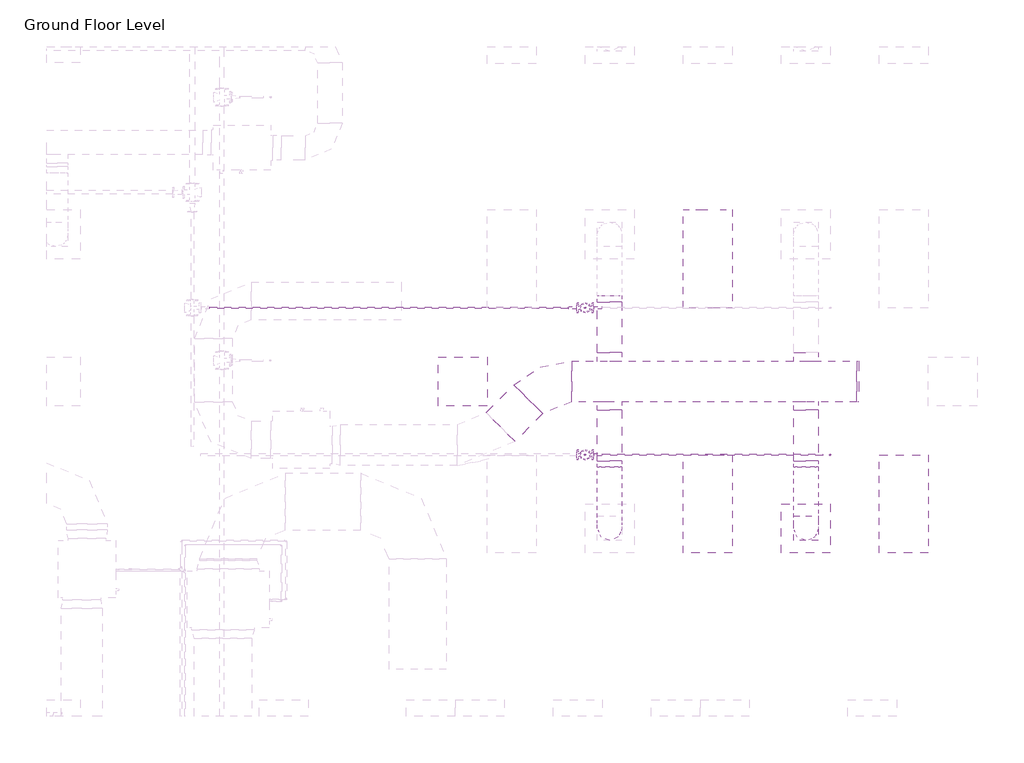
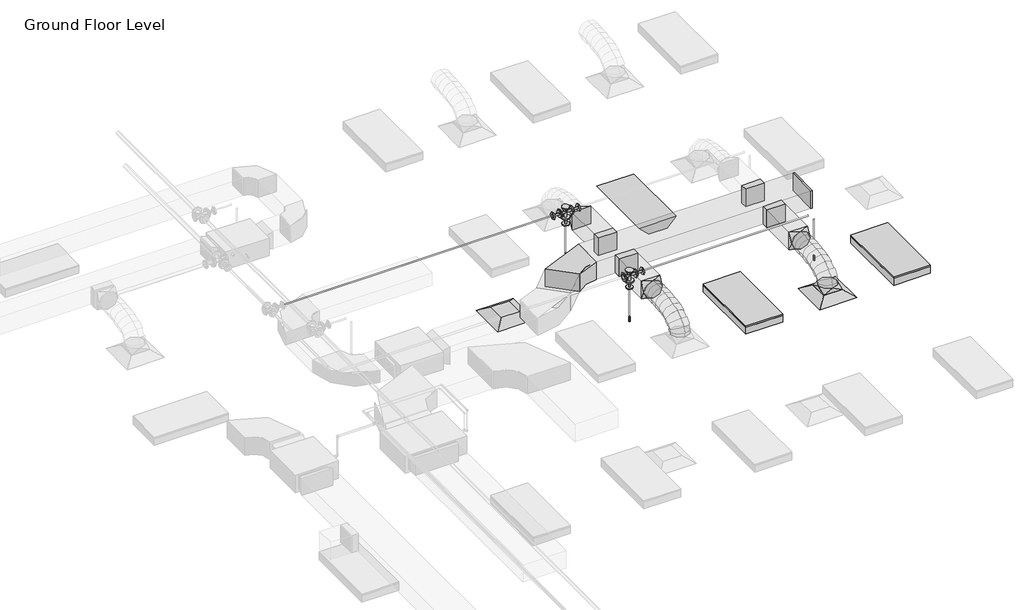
# One storey, part 36 of 68: 10 duct fittings, 7 duct segments, 7 pipe fittings, 5 pipe segments, 3 fire suppression terminals, 3 light fixtures, 2 air terminals.
"""IFC4 building model written with IfcOpenShell, lengths in millimetres."""

from ifc_helpers import new_model, si_unit, point, frame, frame_2d, origin, place, context, project, spatial, polyline, circle_curve, ellipse_curve, trimmed, segment, composite_curve, outline, extrude, transform, mapped, element, save
from ifc_brep_helpers import plane_surface, cylinder_surface, advanced_brep
from components import m_return_diffuser_600_x_600_face_300_x_300_connection_ff221211, m_rectangular_elbow_radius_1_5_w_acc56c25, m_rectangular_endcap_standard_72d4d00d, m_rectangular_takeoff_standard_cb0ccb98, m_rectangular_takeoff_standard_2be5eba1, m_rectangular_to_round_transition_angle_45_degree_641efff0, m_sprinkler_dry_pendent_hosted_15_mm_dry_pendent_9bda8e11, m_emergency_recessed_lighting_fixture_600x1200_277_5b10b25d, m_troffer_light_parabolic_rectangular1_0600x1200mm_4_lamp_86473d4a, m_reducer_flanged_cs_class_150_standard_ccf252ad, m_tee_round_base_flanged_cs_class_150_standard_7e5987a1

model = new_model("IFC4")

# Units and contexts
model_context = context("Model", 3, world=origin())
ifc_project = project(units=[si_unit("LENGTHUNIT", "METRE", prefix="MILLI")], contexts=[model_context])

# Site, building, storey
site = spatial("IfcSite", under=ifc_project)
building = spatial("IfcBuilding", under=site)
storey = spatial("IfcBuildingStorey", under=building, Name="Ground Floor Level", Elevation=900.0)

# Air terminals
placement = place(None, origin())
m_return_diffuser_600_x_600_face_300_x_300_connection_shape = m_return_diffuser_600_x_600_face_300_x_300_connection_ff221211(model_context)
element("IfcAirTerminal", 1, ObjectType="M_Return Diffuser : 600 x 600 Face 300 x 300 Connection", at=placement, inside=storey, context=model_context, shape_type="MappedRepresentation", body=[
    mapped(m_return_diffuser_600_x_600_face_300_x_300_connection_shape, transform((8942.7672395, -5264.7846466, 3650.0), x_axis=(1.0, 0.0, 0.0), y_axis=(0.0, 1.0, 0.0), z_axis=(0.0, 0.0, 1.0))),
])
element("IfcAirTerminal", 2, ObjectType="M_Supply Diffuser : 600 x 600 Face 300 x 300 Connection", at=placement, inside=storey, context=model_context, shape_type="MappedRepresentation", body=[
    mapped(m_return_diffuser_600_x_600_face_300_x_300_connection_shape, transform((13142.7672395, -7064.7846466, 3650.0), x_axis=(1.0, 0.0, 0.0), y_axis=(0.0, 1.0, 0.0), z_axis=(0.0, 0.0, 1.0))),
])

# Duct fittings
m_rectangular_elbow_radius_1_5_w_shape = m_rectangular_elbow_radius_1_5_w_acc56c25(model_context)
element("IfcDuctFitting", 3, ObjectType="M_Rectangular Elbow - Radius : 1.5 W", at=placement, inside=storey, context=model_context, shape_type="MappedRepresentation", body=[
    mapped(m_rectangular_elbow_radius_1_5_w_shape, transform((9966.7301365, -5264.7846466, 4100.0), x_axis=(-1.0, 0.0, 0.0), y_axis=(0.0, -0.9999999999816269, 6.061864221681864e-06), z_axis=(0.0, 6.061864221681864e-06, 0.9999999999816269))),
])
m_rectangular_endcap_standard_shape = m_rectangular_endcap_standard_72d4d00d(model_context)
element("IfcDuctFitting", 4, ObjectType="M_Rectangular Endcap : Standard", at=placement, inside=storey, context=model_context, shape_type="MappedRepresentation", body=[
    mapped(m_rectangular_endcap_standard_shape, transform((13766.7301365, -5264.7846466, 4100.0), x_axis=(1.0, 0.0, 0.0), y_axis=(0.0, 1.0, 0.0), z_axis=(0.0, 0.0, 1.0))),
])
m_rectangular_takeoff_standard_shape = m_rectangular_takeoff_standard_cb0ccb98(model_context)
element("IfcDuctFitting", 5, ObjectType="M_Rectangular Takeoff : Standard", at=placement, inside=storey, context=model_context, shape_type="MappedRepresentation", body=[
    mapped(m_rectangular_takeoff_standard_shape, transform((10742.7672395, -5014.7846466, 4100.0), x_axis=(0.0, 1.0, 0.0), y_axis=(1.0, 0.0, 0.0), z_axis=(0.0, 0.0, -1.0))),
])
element("IfcDuctFitting", 6, ObjectType="M_Rectangular Takeoff : Standard", at=placement, inside=storey, context=model_context, shape_type="MappedRepresentation", body=[
    mapped(m_rectangular_takeoff_standard_shape, transform((13142.7672395, -5014.7846466, 4100.0), x_axis=(0.0, 1.0, 0.0), y_axis=(1.0, 0.0, 0.0), z_axis=(0.0, 0.0, -1.0))),
])
m_rectangular_takeoff_standard_2_shape = m_rectangular_takeoff_standard_2be5eba1(model_context)
element("IfcDuctFitting", 7, ObjectType="M_Rectangular Takeoff : Standard", at=placement, inside=storey, context=model_context, shape_type="MappedRepresentation", body=[
    mapped(m_rectangular_takeoff_standard_2_shape, transform((13142.7672395, -5514.7846466, 4100.0), x_axis=(0.0, -1.0, 0.0), y_axis=(-1.0, 0.0, 0.0), z_axis=(0.0, 0.0, -1.0))),
])
element("IfcDuctFitting", 8, ObjectType="M_Rectangular Takeoff : Standard", at=placement, inside=storey, context=model_context, shape_type="MappedRepresentation", body=[
    mapped(m_rectangular_takeoff_standard_2_shape, transform((10742.7672395, -5514.7846466, 4100.0), x_axis=(0.0, -1.0, 0.0), y_axis=(-1.0, 0.0, 0.0), z_axis=(0.0, 0.0, -1.0))),
])
m_rectangular_to_round_transition_angle_45_degree_shape = m_rectangular_to_round_transition_angle_45_degree_641efff0(model_context)
element("IfcDuctFitting", 9, ObjectType="M_Rectangular to Round Transition - Angle : 45 Degree", at=placement, inside=storey, context=model_context, shape_type="MappedRepresentation", body=[
    mapped(m_rectangular_to_round_transition_angle_45_degree_shape, transform((10742.7672395, -6237.4487153, 4100.0), x_axis=(0.0, -1.0, 0.0), y_axis=(1.0, 0.0, 0.0), z_axis=(0.0, 0.0, 1.0))),
])
element("IfcDuctFitting", 10, ObjectType="M_Rectangular to Round Transition - Angle : 45 Degree", at=placement, inside=storey, context=model_context, shape_type="MappedRepresentation", body=[
    mapped(m_rectangular_to_round_transition_angle_45_degree_shape, transform((13142.7672395, -7064.7846466, 3751.6), x_axis=(0.0, 0.0, 1.0), y_axis=(-1.0, 0.0, 0.0), z_axis=(0.0, -1.0, 0.0))),
])
element("IfcDuctFitting", 11, ObjectType="M_Rectangular to Round Transition - Angle : 45 Degree", at=placement, inside=storey, context=model_context, shape_type="MappedRepresentation", body=[
    mapped(m_rectangular_to_round_transition_angle_45_degree_shape, transform((13142.7672395, -6237.4487153, 4100.0), x_axis=(0.0, -1.0, 0.0), y_axis=(1.0, 0.0, 0.0), z_axis=(0.0, 0.0, 1.0))),
])
element("IfcDuctFitting", 12, ObjectType="M_Rectangular to Round Transition - Angle : 45 Degree", at=placement, inside=storey, context=model_context, shape_type="MappedRepresentation", body=[
    mapped(m_rectangular_to_round_transition_angle_45_degree_shape, transform((10742.7672395, -4292.1205779, 4100.0), x_axis=(0.0, 1.0, 0.0), y_axis=(-1.0, 0.0, 0.0), z_axis=(0.0, 0.0, 1.0))),
])

# Duct segments
element("IfcDuctSegment", 13, ObjectType="Flex - Round", at=placement, inside=storey, context=model_context, shape_type="AdvancedBrep", body=[
    advanced_brep(
    [(10892.7672395, -7064.7846466, 3826.6), (10742.7672395, -7214.7846466, 3826.6), (10592.7672395, -7064.7846466, 3826.6), (10742.7672395, -6914.7846466, 3826.6), (10892.7672395, -7064.7846466, 3857.9377114), (10742.7672395, -7214.7846466, 3883.5809337), (10592.7672395, -7064.7846466, 3857.9377114), (10742.7672395, -6914.7846466, 3832.2944892), (10892.7672395, -7047.7687141, 3906.2505728), (10742.7672395, -7181.506693, 3978.0660967), (10592.7672395, -7047.7687141, 3906.2505728), (10742.7672395, -6914.0307351, 3834.435049), (10892.7672395, -7000.5848337, 3968.7113131), (10742.7672395, -7104.7907329, 4079.6206026), (10592.7672395, -7000.5848337, 3968.7113131), (10742.7672395, -6896.3789345, 3857.8020236), (10892.7672395, -6929.0288815, 4016.0700639), (10742.7672395, -6997.9629372, 4150.3237489), (10592.7672395, -6929.0288815, 4016.0700639), (10742.7672395, -6860.0948259, 3881.8163788), (10892.7672395, -6838.8967335, 4050.4146682), (10742.7672395, -6882.4574967, 4194.3367758), (10592.7672395, -6838.8967335, 4050.4146682), (10742.7672395, -6795.3359704, 3906.4925606), (10892.7672395, -6735.9842657, 4073.8329691), (10742.7672395, -6762.5451897, 4221.6234841), (10592.7672395, -6735.9842657, 4073.8329691), (10742.7672395, -6709.4233417, 3926.0424542), (10892.7672395, -6626.087354, 4088.4128097), (10742.7672395, -6641.2382563, 4237.7170733), (10592.7672395, -6626.087354, 4088.4128097), (10742.7672395, -6610.9364516, 3939.1085462), (10892.7672395, -6515.0018743, 4096.242033), (10742.7672395, -6522.5072025, 4246.085151), (10592.7672395, -6515.0018743, 4096.242033), (10742.7672395, -6507.4965462, 3946.398915), (10892.7672395, -6408.5237028, 4099.4084821), (10742.7672395, -6411.2151959, 4249.394754), (10592.7672395, -6408.5237028, 4099.4084821), (10742.7672395, -6405.8322097, 3949.4222102), (10892.7672395, -6312.4487153, 4100.0), (10742.7672395, -6311.5252075, 3950.0028429), (10592.7672395, -6312.4487153, 4100.0), (10742.7672395, -6313.3722232, 4249.9971571)],
    [
        (0, 1, circle_curve(frame((10742.7672395, -7064.7846466, 3826.6), z_axis=(0.0, 0.0, -1.0), x_axis=(1.0, 0.0, 0.0)), 150.0)),
        (1, 2, circle_curve(frame((10742.7672395, -7064.7846466, 3826.6), z_axis=(0.0, 0.0, -1.0), x_axis=(1.0, 0.0, 0.0)), 150.0)),
        (2, 3, circle_curve(frame((10742.7672395, -7064.7846466, 3826.6), z_axis=(0.0, 0.0, -1.0), x_axis=(1.0, 0.0, 0.0)), 150.0)),
        (3, 0, circle_curve(frame((10742.7672395, -7064.7846466, 3826.6), z_axis=(0.0, 0.0, -1.0), x_axis=(1.0, 0.0, 0.0)), 150.0)),
        (0, 4),
        (4, 5, ellipse_curve(frame((10742.7672395, -7064.7846466, 3857.9377114), z_axis=(0.0, -0.16851014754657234, -0.9856999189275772), x_axis=(0.0, 0.9856999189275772, -0.1685101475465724)), 152.176131, 150.0)),
        (5, 1),
        (5, 6, ellipse_curve(frame((10742.7672395, -7064.7846466, 3857.9377114), z_axis=(0.0, -0.16851014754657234, -0.9856999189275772), x_axis=(0.0, 0.9856999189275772, -0.1685101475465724)), 152.176131, 150.0)),
        (6, 2),
        (6, 7, ellipse_curve(frame((10742.7672395, -7064.7846466, 3857.9377114), z_axis=(0.0, -0.16851014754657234, -0.9856999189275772), x_axis=(0.0, 0.9856999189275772, -0.1685101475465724)), 152.176131, 150.0)),
        (7, 3),
        (7, 4, ellipse_curve(frame((10742.7672395, -7064.7846466, 3857.9377114), z_axis=(0.0, -0.16851014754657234, -0.9856999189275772), x_axis=(0.0, 0.9856999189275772, -0.1685101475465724)), 152.176131, 150.0)),
        (4, 8),
        (8, 9, ellipse_curve(frame((10742.7672395, -7047.7687141, 3906.2505728), z_axis=(0.0, -0.4730922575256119, -0.8810128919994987), x_axis=(0.0, 0.8810128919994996, -0.47309225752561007)), 151.8002519, 150.0)),
        (9, 5),
        (9, 10, ellipse_curve(frame((10742.7672395, -7047.7687141, 3906.2505728), z_axis=(0.0, -0.4730922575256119, -0.8810128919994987), x_axis=(0.0, 0.8810128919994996, -0.47309225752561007)), 151.8002519, 150.0)),
        (10, 6),
        (10, 11, ellipse_curve(frame((10742.7672395, -7047.7687141, 3906.2505728), z_axis=(0.0, -0.4730922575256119, -0.8810128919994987), x_axis=(0.0, 0.8810128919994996, -0.47309225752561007)), 151.8002519, 150.0)),
        (11, 7),
        (11, 8, ellipse_curve(frame((10742.7672395, -7047.7687141, 3906.2505728), z_axis=(0.0, -0.4730922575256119, -0.8810128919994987), x_axis=(0.0, 0.8810128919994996, -0.47309225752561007)), 151.8002519, 150.0)),
        (8, 12),
        (12, 13, ellipse_curve(frame((10742.7672395, -7000.5848337, 3968.7113131), z_axis=(0.0, -0.7287877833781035, -0.6847396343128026), x_axis=(0.0, 0.6847396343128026, -0.7287877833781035)), 152.1832446, 150.0)),
        (13, 9),
        (13, 14, ellipse_curve(frame((10742.7672395, -7000.5848337, 3968.7113131), z_axis=(0.0, -0.7287877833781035, -0.6847396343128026), x_axis=(0.0, 0.6847396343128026, -0.7287877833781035)), 152.1832446, 150.0)),
        (14, 10),
        (14, 15, ellipse_curve(frame((10742.7672395, -7000.5848337, 3968.7113131), z_axis=(0.0, -0.7287877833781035, -0.6847396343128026), x_axis=(0.0, 0.6847396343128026, -0.7287877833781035)), 152.1832446, 150.0)),
        (15, 11),
        (15, 12, ellipse_curve(frame((10742.7672395, -7000.5848337, 3968.7113131), z_axis=(0.0, -0.7287877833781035, -0.6847396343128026), x_axis=(0.0, 0.6847396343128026, -0.7287877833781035)), 152.1832446, 150.0)),
        (12, 16),
        (16, 17, ellipse_curve(frame((10742.7672395, -6929.0288815, 4016.0700639), z_axis=(0.0, -0.8895859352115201, -0.4567678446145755), x_axis=(0.0, 0.45676784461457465, -0.8895859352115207)), 150.91705, 150.0)),
        (17, 13),
        (17, 18, ellipse_curve(frame((10742.7672395, -6929.0288815, 4016.0700639), z_axis=(0.0, -0.8895859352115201, -0.4567678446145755), x_axis=(0.0, 0.45676784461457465, -0.8895859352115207)), 150.91705, 150.0)),
        (18, 14),
        (18, 19, ellipse_curve(frame((10742.7672395, -6929.0288815, 4016.0700639), z_axis=(0.0, -0.8895859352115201, -0.4567678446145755), x_axis=(0.0, 0.45676784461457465, -0.8895859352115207)), 150.91705, 150.0)),
        (19, 15),
        (19, 16, ellipse_curve(frame((10742.7672395, -6929.0288815, 4016.0700639), z_axis=(0.0, -0.8895859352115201, -0.4567678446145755), x_axis=(0.0, 0.45676784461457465, -0.8895859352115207)), 150.91705, 150.0)),
        (16, 20),
        (20, 21, ellipse_curve(frame((10742.7672395, -6838.8967335, 4050.4146682), z_axis=(0.0, -0.9571203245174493, -0.28969067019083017), x_axis=(0.0, 0.28969067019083, -0.9571203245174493)), 150.369921, 150.0)),
        (21, 17),
        (21, 22, ellipse_curve(frame((10742.7672395, -6838.8967335, 4050.4146682), z_axis=(0.0, -0.9571203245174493, -0.28969067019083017), x_axis=(0.0, 0.28969067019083, -0.9571203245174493)), 150.369921, 150.0)),
        (22, 18),
        (22, 23, ellipse_curve(frame((10742.7672395, -6838.8967335, 4050.4146682), z_axis=(0.0, -0.9571203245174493, -0.28969067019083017), x_axis=(0.0, 0.28969067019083, -0.9571203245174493)), 150.369921, 150.0)),
        (23, 19),
        (23, 20, ellipse_curve(frame((10742.7672395, -6838.8967335, 4050.4146682), z_axis=(0.0, -0.9571203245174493, -0.28969067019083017), x_axis=(0.0, 0.28969067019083, -0.9571203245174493)), 150.369921, 150.0)),
        (20, 24),
        (24, 25, ellipse_curve(frame((10742.7672395, -6735.9842657, 4073.8329691), z_axis=(0.0, -0.9842313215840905, -0.1768861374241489), x_axis=(0.0, 0.17688613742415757, -0.9842313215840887)), 150.1583131, 150.0)),
        (25, 21),
        (25, 26, ellipse_curve(frame((10742.7672395, -6735.9842657, 4073.8329691), z_axis=(0.0, -0.9842313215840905, -0.1768861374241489), x_axis=(0.0, 0.17688613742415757, -0.9842313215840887)), 150.1583131, 150.0)),
        (26, 22),
        (26, 27, ellipse_curve(frame((10742.7672395, -6735.9842657, 4073.8329691), z_axis=(0.0, -0.9842313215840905, -0.1768861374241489), x_axis=(0.0, 0.17688613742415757, -0.9842313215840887)), 150.1583131, 150.0)),
        (27, 23),
        (27, 24, ellipse_curve(frame((10742.7672395, -6735.9842657, 4073.8329691), z_axis=(0.0, -0.9842313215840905, -0.1768861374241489), x_axis=(0.0, 0.17688613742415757, -0.9842313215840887)), 150.1583131, 150.0)),
        (24, 28),
        (28, 29, ellipse_curve(frame((10742.7672395, -6626.087354, 4088.4128097), z_axis=(0.0, -0.9948906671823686, -0.10095821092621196), x_axis=(0.0, 0.10095821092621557, -0.9948906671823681)), 150.0710264, 150.0)),
        (29, 25),
        (29, 30, ellipse_curve(frame((10742.7672395, -6626.087354, 4088.4128097), z_axis=(0.0, -0.9948906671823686, -0.10095821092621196), x_axis=(0.0, 0.10095821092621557, -0.9948906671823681)), 150.0710264, 150.0)),
        (30, 26),
        (30, 31, ellipse_curve(frame((10742.7672395, -6626.087354, 4088.4128097), z_axis=(0.0, -0.9948906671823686, -0.10095821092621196), x_axis=(0.0, 0.10095821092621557, -0.9948906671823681)), 150.0710264, 150.0)),
        (31, 27),
        (31, 28, ellipse_curve(frame((10742.7672395, -6626.087354, 4088.4128097), z_axis=(0.0, -0.9948906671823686, -0.10095821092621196), x_axis=(0.0, 0.10095821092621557, -0.9948906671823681)), 150.0710264, 150.0)),
        (28, 32),
        (32, 33, ellipse_curve(frame((10742.7672395, -6515.0018743, 4096.242033), z_axis=(0.0, -0.9987479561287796, -0.05002519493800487), x_axis=(0.0, 0.050025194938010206, -0.9987479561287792)), 150.0309634, 150.0)),
        (33, 29),
        (33, 34, ellipse_curve(frame((10742.7672395, -6515.0018743, 4096.242033), z_axis=(0.0, -0.9987479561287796, -0.05002519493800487), x_axis=(0.0, 0.050025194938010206, -0.9987479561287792)), 150.0309634, 150.0)),
        (34, 30),
        (34, 35, ellipse_curve(frame((10742.7672395, -6515.0018743, 4096.242033), z_axis=(0.0, -0.9987479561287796, -0.05002519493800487), x_axis=(0.0, 0.050025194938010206, -0.9987479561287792)), 150.0309634, 150.0)),
        (35, 31),
        (35, 32, ellipse_curve(frame((10742.7672395, -6515.0018743, 4096.242033), z_axis=(0.0, -0.9987479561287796, -0.05002519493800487), x_axis=(0.0, 0.050025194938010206, -0.9987479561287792)), 150.0309634, 150.0)),
        (32, 36),
        (36, 37, ellipse_curve(frame((10742.7672395, -6408.5237028, 4099.4084821), z_axis=(0.0, -0.9998390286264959, -0.017942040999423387), x_axis=(0.0, 0.01794204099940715, -0.9998390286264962)), 150.0104193, 150.0)),
        (37, 33),
        (37, 38, ellipse_curve(frame((10742.7672395, -6408.5237028, 4099.4084821), z_axis=(0.0, -0.9998390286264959, -0.017942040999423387), x_axis=(0.0, 0.01794204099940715, -0.9998390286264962)), 150.0104193, 150.0)),
        (38, 34),
        (38, 39, ellipse_curve(frame((10742.7672395, -6408.5237028, 4099.4084821), z_axis=(0.0, -0.9998390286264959, -0.017942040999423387), x_axis=(0.0, 0.01794204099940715, -0.9998390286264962)), 150.0104193, 150.0)),
        (39, 35),
        (39, 36, ellipse_curve(frame((10742.7672395, -6408.5237028, 4099.4084821), z_axis=(0.0, -0.9998390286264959, -0.017942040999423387), x_axis=(0.0, 0.01794204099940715, -0.9998390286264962)), 150.0104193, 150.0)),
        (40, 41, circle_curve(frame((10742.7672395, -6312.4487153, 4100.0), z_axis=(0.0, 0.9999810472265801, 0.0061567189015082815), x_axis=(1.0, 0.0, 0.0)), 150.0)),
        (41, 42, circle_curve(frame((10742.7672395, -6312.4487153, 4100.0), z_axis=(0.0, 0.9999810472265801, 0.0061567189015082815), x_axis=(1.0, 0.0, 0.0)), 150.0)),
        (42, 43, circle_curve(frame((10742.7672395, -6312.4487153, 4100.0), z_axis=(0.0, 0.9999810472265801, 0.0061567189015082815), x_axis=(1.0, 0.0, 0.0)), 150.0)),
        (43, 40, circle_curve(frame((10742.7672395, -6312.4487153, 4100.0), z_axis=(0.0, 0.9999810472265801, 0.0061567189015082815), x_axis=(1.0, 0.0, 0.0)), 150.0)),
        (36, 40),
        (43, 37),
        (42, 38),
        (41, 39),
    ],
    [
        plane_surface(frame((10742.7672395, -7214.7846466, 3826.6), z_axis=(0.0, 0.0, -1.0), x_axis=(1.0, 0.0, 0.0))),
        cylinder_surface(frame((10742.7672395, -7064.7846466, 3826.6), z_axis=(0.0, 0.0, -1.0), x_axis=(1.0, 0.0, 0.0)), 150.0),
        cylinder_surface(frame((10742.7672395, -7064.7846466, 3857.9377114), z_axis=(0.0, -0.3322008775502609, -0.9432086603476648), x_axis=(1.0, 0.0, 0.0)), 150.0),
        cylinder_surface(frame((10742.7672395, -7047.7687141, 3906.2505728), z_axis=(0.0, -0.6027625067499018, -0.7979206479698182), x_axis=(1.0, 0.0, 0.0)), 150.0),
        cylinder_surface(frame((10742.7672395, -7000.5848337, 3968.7113131), z_axis=(0.0, -0.8339024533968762, -0.5519118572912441), x_axis=(1.0, 0.0, 0.0)), 150.0),
        cylinder_surface(frame((10742.7672395, -6929.0288815, 4016.0700639), z_axis=(0.0, -0.9344582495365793, -0.3560727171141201), x_axis=(1.0, 0.0, 0.0)), 150.0),
        cylinder_surface(frame((10742.7672395, -6838.8967335, 4050.4146682), z_axis=(0.0, -0.9750732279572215, -0.2218833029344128), x_axis=(1.0, 0.0, 0.0)), 150.0),
        cylinder_surface(frame((10742.7672395, -6735.9842657, 4073.8329691), z_axis=(0.0, -0.9913140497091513, -0.13151598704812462), x_axis=(1.0, 0.0, 0.0)), 150.0),
        cylinder_surface(frame((10742.7672395, -6626.087354, 4088.4128097), z_axis=(0.0, -0.9975255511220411, -0.07030487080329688), x_axis=(1.0, 0.0, 0.0)), 150.0),
        cylinder_surface(frame((10742.7672395, -6515.0018743, 4096.242033), z_axis=(0.0, -0.9995581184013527, -0.02972487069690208), x_axis=(1.0, 0.0, 0.0)), 150.0),
        plane_surface(frame((10742.7672395, -6313.3722232, 4249.9971571), z_axis=(0.0, 0.9999810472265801, 0.0061567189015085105), x_axis=(1.0, 0.0, 0.0))),
        cylinder_surface(frame((10742.7672395, -6408.5237028, 4099.4084821), z_axis=(0.0, -0.9999810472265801, -0.0061567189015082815), x_axis=(1.0, 0.0, 0.0)), 150.0),
    ],
    [
        (0, [[1, 2, 3, 4]]),
        (1, [[-1, 5, 6, 7]]),
        (1, [[-2, -7, 8, 9]]),
        (1, [[-3, -9, 10, 11]]),
        (1, [[-4, -11, 12, -5]]),
        (2, [[-6, 13, 14, 15]]),
        (2, [[-8, -15, 16, 17]]),
        (2, [[-10, -17, 18, 19]]),
        (2, [[-12, -19, 20, -13]]),
        (3, [[-14, 21, 22, 23]]),
        (3, [[-16, -23, 24, 25]]),
        (3, [[-18, -25, 26, 27]]),
        (3, [[-20, -27, 28, -21]]),
        (4, [[-22, 29, 30, 31]]),
        (4, [[-24, -31, 32, 33]]),
        (4, [[-26, -33, 34, 35]]),
        (4, [[-28, -35, 36, -29]]),
        (5, [[-30, 37, 38, 39]]),
        (5, [[-32, -39, 40, 41]]),
        (5, [[-34, -41, 42, 43]]),
        (5, [[-36, -43, 44, -37]]),
        (6, [[-38, 45, 46, 47]]),
        (6, [[-40, -47, 48, 49]]),
        (6, [[-42, -49, 50, 51]]),
        (6, [[-44, -51, 52, -45]]),
        (7, [[-46, 53, 54, 55]]),
        (7, [[-48, -55, 56, 57]]),
        (7, [[-50, -57, 58, 59]]),
        (7, [[-52, -59, 60, -53]]),
        (8, [[-54, 61, 62, 63]]),
        (8, [[-56, -63, 64, 65]]),
        (8, [[-58, -65, 66, 67]]),
        (8, [[-60, -67, 68, -61]]),
        (9, [[-62, 69, 70, 71]]),
        (9, [[-64, -71, 72, 73]]),
        (9, [[-66, -73, 74, 75]]),
        (9, [[-68, -75, 76, -69]]),
        (10, [[77, 78, 79, 80]]),
        (11, [[-70, 81, -80, 82]]),
        (11, [[-72, -82, -79, 83]]),
        (11, [[-74, -83, -78, 84]]),
        (11, [[-76, -84, -77, -81]]),
    ],
),
])
element("IfcDuctSegment", 14, ObjectType="Flex - Round", at=placement, inside=storey, context=model_context, shape_type="AdvancedBrep", body=[
    advanced_brep(
    [(13292.7672395, -7064.7846466, 3826.6), (13142.7672395, -7214.7846466, 3826.6), (12992.7672395, -7064.7846466, 3826.6), (13142.7672395, -6914.7846466, 3826.6), (13292.7672395, -7064.7846466, 3857.9377114), (13142.7672395, -7214.7846466, 3883.5809337), (12992.7672395, -7064.7846466, 3857.9377114), (13142.7672395, -6914.7846466, 3832.2944892), (13292.7672395, -7047.7687141, 3906.2505728), (13142.7672395, -7181.506693, 3978.0660967), (12992.7672395, -7047.7687141, 3906.2505728), (13142.7672395, -6914.0307351, 3834.435049), (13292.7672395, -7000.5848337, 3968.7113131), (13142.7672395, -7104.7907329, 4079.6206026), (12992.7672395, -7000.5848337, 3968.7113131), (13142.7672395, -6896.3789345, 3857.8020236), (13292.7672395, -6929.0288815, 4016.0700639), (13142.7672395, -6997.9629372, 4150.3237489), (12992.7672395, -6929.0288815, 4016.0700639), (13142.7672395, -6860.0948259, 3881.8163788), (13292.7672395, -6838.8967335, 4050.4146682), (13142.7672395, -6882.4574967, 4194.3367758), (12992.7672395, -6838.8967335, 4050.4146682), (13142.7672395, -6795.3359704, 3906.4925606), (13292.7672395, -6735.9842657, 4073.8329691), (13142.7672395, -6762.5451897, 4221.6234841), (12992.7672395, -6735.9842657, 4073.8329691), (13142.7672395, -6709.4233417, 3926.0424542), (13292.7672395, -6626.087354, 4088.4128097), (13142.7672395, -6641.2382563, 4237.7170733), (12992.7672395, -6626.087354, 4088.4128097), (13142.7672395, -6610.9364516, 3939.1085462), (13292.7672395, -6515.0018743, 4096.242033), (13142.7672395, -6522.5072025, 4246.085151), (12992.7672395, -6515.0018743, 4096.242033), (13142.7672395, -6507.4965462, 3946.398915), (13292.7672395, -6408.5237028, 4099.4084821), (13142.7672395, -6411.2151959, 4249.394754), (12992.7672395, -6408.5237028, 4099.4084821), (13142.7672395, -6405.8322097, 3949.4222102), (13292.7672395, -6312.4487153, 4100.0), (13142.7672395, -6311.5252075, 3950.0028429), (12992.7672395, -6312.4487153, 4100.0), (13142.7672395, -6313.3722232, 4249.9971571)],
    [
        (0, 1, circle_curve(frame((13142.7672395, -7064.7846466, 3826.6), z_axis=(0.0, 0.0, -1.0), x_axis=(1.0, 0.0, 0.0)), 150.0)),
        (1, 2, circle_curve(frame((13142.7672395, -7064.7846466, 3826.6), z_axis=(0.0, 0.0, -1.0), x_axis=(1.0, 0.0, 0.0)), 150.0)),
        (2, 3, circle_curve(frame((13142.7672395, -7064.7846466, 3826.6), z_axis=(0.0, 0.0, -1.0), x_axis=(1.0, 0.0, 0.0)), 150.0)),
        (3, 0, circle_curve(frame((13142.7672395, -7064.7846466, 3826.6), z_axis=(0.0, 0.0, -1.0), x_axis=(1.0, 0.0, 0.0)), 150.0)),
        (0, 4),
        (4, 5, ellipse_curve(frame((13142.7672395, -7064.7846466, 3857.9377114), z_axis=(0.0, -0.16851014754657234, -0.9856999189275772), x_axis=(0.0, 0.9856999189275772, -0.1685101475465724)), 152.176131, 150.0)),
        (5, 1),
        (5, 6, ellipse_curve(frame((13142.7672395, -7064.7846466, 3857.9377114), z_axis=(0.0, -0.16851014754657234, -0.9856999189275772), x_axis=(0.0, 0.9856999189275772, -0.1685101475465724)), 152.176131, 150.0)),
        (6, 2),
        (6, 7, ellipse_curve(frame((13142.7672395, -7064.7846466, 3857.9377114), z_axis=(0.0, -0.16851014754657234, -0.9856999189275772), x_axis=(0.0, 0.9856999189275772, -0.1685101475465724)), 152.176131, 150.0)),
        (7, 3),
        (7, 4, ellipse_curve(frame((13142.7672395, -7064.7846466, 3857.9377114), z_axis=(0.0, -0.16851014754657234, -0.9856999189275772), x_axis=(0.0, 0.9856999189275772, -0.1685101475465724)), 152.176131, 150.0)),
        (4, 8),
        (8, 9, ellipse_curve(frame((13142.7672395, -7047.7687141, 3906.2505728), z_axis=(0.0, -0.47309225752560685, -0.8810128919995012), x_axis=(0.0, 0.881012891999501, -0.4730922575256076)), 151.8002519, 150.0)),
        (9, 5),
        (9, 10, ellipse_curve(frame((13142.7672395, -7047.7687141, 3906.2505728), z_axis=(0.0, -0.47309225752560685, -0.8810128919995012), x_axis=(0.0, 0.881012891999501, -0.4730922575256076)), 151.8002519, 150.0)),
        (10, 6),
        (10, 11, ellipse_curve(frame((13142.7672395, -7047.7687141, 3906.2505728), z_axis=(0.0, -0.47309225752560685, -0.8810128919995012), x_axis=(0.0, 0.881012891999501, -0.4730922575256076)), 151.8002519, 150.0)),
        (11, 7),
        (11, 8, ellipse_curve(frame((13142.7672395, -7047.7687141, 3906.2505728), z_axis=(0.0, -0.47309225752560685, -0.8810128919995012), x_axis=(0.0, 0.881012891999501, -0.4730922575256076)), 151.8002519, 150.0)),
        (8, 12),
        (12, 13, ellipse_curve(frame((13142.7672395, -7000.5848337, 3968.7113131), z_axis=(0.0, -0.7287877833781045, -0.6847396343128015), x_axis=(0.0, 0.6847396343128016, -0.7287877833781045)), 152.1832446, 150.0)),
        (13, 9),
        (13, 14, ellipse_curve(frame((13142.7672395, -7000.5848337, 3968.7113131), z_axis=(0.0, -0.7287877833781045, -0.6847396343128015), x_axis=(0.0, 0.6847396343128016, -0.7287877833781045)), 152.1832446, 150.0)),
        (14, 10),
        (14, 15, ellipse_curve(frame((13142.7672395, -7000.5848337, 3968.7113131), z_axis=(0.0, -0.7287877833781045, -0.6847396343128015), x_axis=(0.0, 0.6847396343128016, -0.7287877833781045)), 152.1832446, 150.0)),
        (15, 11),
        (15, 12, ellipse_curve(frame((13142.7672395, -7000.5848337, 3968.7113131), z_axis=(0.0, -0.7287877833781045, -0.6847396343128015), x_axis=(0.0, 0.6847396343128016, -0.7287877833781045)), 152.1832446, 150.0)),
        (12, 16),
        (16, 17, ellipse_curve(frame((13142.7672395, -6929.0288815, 4016.0700639), z_axis=(0.0, -0.8895859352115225, -0.4567678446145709), x_axis=(0.0, 0.45676784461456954, -0.8895859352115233)), 150.91705, 150.0)),
        (17, 13),
        (17, 18, ellipse_curve(frame((13142.7672395, -6929.0288815, 4016.0700639), z_axis=(0.0, -0.8895859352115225, -0.4567678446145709), x_axis=(0.0, 0.45676784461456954, -0.8895859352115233)), 150.91705, 150.0)),
        (18, 14),
        (18, 19, ellipse_curve(frame((13142.7672395, -6929.0288815, 4016.0700639), z_axis=(0.0, -0.8895859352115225, -0.4567678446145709), x_axis=(0.0, 0.45676784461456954, -0.8895859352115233)), 150.91705, 150.0)),
        (19, 15),
        (19, 16, ellipse_curve(frame((13142.7672395, -6929.0288815, 4016.0700639), z_axis=(0.0, -0.8895859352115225, -0.4567678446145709), x_axis=(0.0, 0.45676784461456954, -0.8895859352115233)), 150.91705, 150.0)),
        (16, 20),
        (20, 21, ellipse_curve(frame((13142.7672395, -6838.8967335, 4050.4146682), z_axis=(0.0, -0.9571203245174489, -0.2896906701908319), x_axis=(0.0, 0.2896906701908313, -0.9571203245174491)), 150.369921, 150.0)),
        (21, 17),
        (21, 22, ellipse_curve(frame((13142.7672395, -6838.8967335, 4050.4146682), z_axis=(0.0, -0.9571203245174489, -0.2896906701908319), x_axis=(0.0, 0.2896906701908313, -0.9571203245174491)), 150.369921, 150.0)),
        (22, 18),
        (22, 23, ellipse_curve(frame((13142.7672395, -6838.8967335, 4050.4146682), z_axis=(0.0, -0.9571203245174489, -0.2896906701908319), x_axis=(0.0, 0.2896906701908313, -0.9571203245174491)), 150.369921, 150.0)),
        (23, 19),
        (23, 20, ellipse_curve(frame((13142.7672395, -6838.8967335, 4050.4146682), z_axis=(0.0, -0.9571203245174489, -0.2896906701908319), x_axis=(0.0, 0.2896906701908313, -0.9571203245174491)), 150.369921, 150.0)),
        (20, 24),
        (24, 25, ellipse_curve(frame((13142.7672395, -6735.9842657, 4073.8329691), z_axis=(0.0, -0.9842313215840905, -0.17688613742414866), x_axis=(0.0, 0.17688613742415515, -0.9842313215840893)), 150.1583131, 150.0)),
        (25, 21),
        (25, 26, ellipse_curve(frame((13142.7672395, -6735.9842657, 4073.8329691), z_axis=(0.0, -0.9842313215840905, -0.17688613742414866), x_axis=(0.0, 0.17688613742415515, -0.9842313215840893)), 150.1583131, 150.0)),
        (26, 22),
        (26, 27, ellipse_curve(frame((13142.7672395, -6735.9842657, 4073.8329691), z_axis=(0.0, -0.9842313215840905, -0.17688613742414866), x_axis=(0.0, 0.17688613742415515, -0.9842313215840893)), 150.1583131, 150.0)),
        (27, 23),
        (27, 24, ellipse_curve(frame((13142.7672395, -6735.9842657, 4073.8329691), z_axis=(0.0, -0.9842313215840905, -0.17688613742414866), x_axis=(0.0, 0.17688613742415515, -0.9842313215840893)), 150.1583131, 150.0)),
        (24, 28),
        (28, 29, ellipse_curve(frame((13142.7672395, -6626.087354, 4088.4128097), z_axis=(0.0, -0.9948906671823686, -0.10095821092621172), x_axis=(0.0, 0.10095821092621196, -0.9948906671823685)), 150.0710264, 150.0)),
        (29, 25),
        (29, 30, ellipse_curve(frame((13142.7672395, -6626.087354, 4088.4128097), z_axis=(0.0, -0.9948906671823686, -0.10095821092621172), x_axis=(0.0, 0.10095821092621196, -0.9948906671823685)), 150.0710264, 150.0)),
        (30, 26),
        (30, 31, ellipse_curve(frame((13142.7672395, -6626.087354, 4088.4128097), z_axis=(0.0, -0.9948906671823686, -0.10095821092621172), x_axis=(0.0, 0.10095821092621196, -0.9948906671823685)), 150.0710264, 150.0)),
        (31, 27),
        (31, 28, ellipse_curve(frame((13142.7672395, -6626.087354, 4088.4128097), z_axis=(0.0, -0.9948906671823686, -0.10095821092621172), x_axis=(0.0, 0.10095821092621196, -0.9948906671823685)), 150.0710264, 150.0)),
        (28, 32),
        (32, 33, ellipse_curve(frame((13142.7672395, -6515.0018743, 4096.242033), z_axis=(0.0, -0.9987479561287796, -0.050025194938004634), x_axis=(0.0, 0.050025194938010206, -0.9987479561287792)), 150.0309634, 150.0)),
        (33, 29),
        (33, 34, ellipse_curve(frame((13142.7672395, -6515.0018743, 4096.242033), z_axis=(0.0, -0.9987479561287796, -0.050025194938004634), x_axis=(0.0, 0.050025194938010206, -0.9987479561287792)), 150.0309634, 150.0)),
        (34, 30),
        (34, 35, ellipse_curve(frame((13142.7672395, -6515.0018743, 4096.242033), z_axis=(0.0, -0.9987479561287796, -0.050025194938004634), x_axis=(0.0, 0.050025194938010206, -0.9987479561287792)), 150.0309634, 150.0)),
        (35, 31),
        (35, 32, ellipse_curve(frame((13142.7672395, -6515.0018743, 4096.242033), z_axis=(0.0, -0.9987479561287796, -0.050025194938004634), x_axis=(0.0, 0.050025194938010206, -0.9987479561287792)), 150.0309634, 150.0)),
        (32, 36),
        (36, 37, ellipse_curve(frame((13142.7672395, -6408.5237028, 4099.4084821), z_axis=(0.0, -0.9998390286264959, -0.01794204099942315), x_axis=(0.0, 0.01794204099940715, -0.9998390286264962)), 150.0104193, 150.0)),
        (37, 33),
        (37, 38, ellipse_curve(frame((13142.7672395, -6408.5237028, 4099.4084821), z_axis=(0.0, -0.9998390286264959, -0.01794204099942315), x_axis=(0.0, 0.01794204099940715, -0.9998390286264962)), 150.0104193, 150.0)),
        (38, 34),
        (38, 39, ellipse_curve(frame((13142.7672395, -6408.5237028, 4099.4084821), z_axis=(0.0, -0.9998390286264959, -0.01794204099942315), x_axis=(0.0, 0.01794204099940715, -0.9998390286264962)), 150.0104193, 150.0)),
        (39, 35),
        (39, 36, ellipse_curve(frame((13142.7672395, -6408.5237028, 4099.4084821), z_axis=(0.0, -0.9998390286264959, -0.01794204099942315), x_axis=(0.0, 0.01794204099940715, -0.9998390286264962)), 150.0104193, 150.0)),
        (40, 41, circle_curve(frame((13142.7672395, -6312.4487153, 4100.0), z_axis=(0.0, 0.9999810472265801, 0.0061567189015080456), x_axis=(1.0, 0.0, 0.0)), 150.0)),
        (41, 42, circle_curve(frame((13142.7672395, -6312.4487153, 4100.0), z_axis=(0.0, 0.9999810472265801, 0.0061567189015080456), x_axis=(1.0, 0.0, 0.0)), 150.0)),
        (42, 43, circle_curve(frame((13142.7672395, -6312.4487153, 4100.0), z_axis=(0.0, 0.9999810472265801, 0.0061567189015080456), x_axis=(1.0, 0.0, 0.0)), 150.0)),
        (43, 40, circle_curve(frame((13142.7672395, -6312.4487153, 4100.0), z_axis=(0.0, 0.9999810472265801, 0.0061567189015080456), x_axis=(1.0, 0.0, 0.0)), 150.0)),
        (36, 40),
        (43, 37),
        (42, 38),
        (41, 39),
    ],
    [
        plane_surface(frame((13142.7672395, -7214.7846466, 3826.6), z_axis=(0.0, 0.0, -1.0), x_axis=(1.0, 0.0, 0.0))),
        cylinder_surface(frame((13142.7672395, -7064.7846466, 3826.6), z_axis=(0.0, 0.0, -1.0), x_axis=(1.0, 0.0, 0.0)), 150.0),
        cylinder_surface(frame((13142.7672395, -7064.7846466, 3857.9377114), z_axis=(0.0, -0.3322008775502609, -0.9432086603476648), x_axis=(1.0, 0.0, 0.0)), 150.0),
        cylinder_surface(frame((13142.7672395, -7047.7687141, 3906.2505728), z_axis=(0.0, -0.602762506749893, -0.7979206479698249), x_axis=(1.0, 0.0, 0.0)), 150.0),
        cylinder_surface(frame((13142.7672395, -7000.5848337, 3968.7113131), z_axis=(0.0, -0.833902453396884, -0.5519118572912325), x_axis=(1.0, 0.0, 0.0)), 150.0),
        cylinder_surface(frame((13142.7672395, -6929.0288815, 4016.0700639), z_axis=(0.0, -0.934458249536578, -0.35607271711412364), x_axis=(1.0, 0.0, 0.0)), 150.0),
        cylinder_surface(frame((13142.7672395, -6838.8967335, 4050.4146682), z_axis=(0.0, -0.9750732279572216, -0.22188330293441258), x_axis=(1.0, 0.0, 0.0)), 150.0),
        cylinder_surface(frame((13142.7672395, -6735.9842657, 4073.8329691), z_axis=(0.0, -0.9913140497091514, -0.1315159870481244), x_axis=(1.0, 0.0, 0.0)), 150.0),
        cylinder_surface(frame((13142.7672395, -6626.087354, 4088.4128097), z_axis=(0.0, -0.9975255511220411, -0.07030487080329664), x_axis=(1.0, 0.0, 0.0)), 150.0),
        cylinder_surface(frame((13142.7672395, -6515.0018743, 4096.242033), z_axis=(0.0, -0.9995581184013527, -0.029724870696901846), x_axis=(1.0, 0.0, 0.0)), 150.0),
        plane_surface(frame((13142.7672395, -6313.3722232, 4249.9971571), z_axis=(0.0, 0.9999810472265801, 0.0061567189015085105), x_axis=(1.0, 0.0, 0.0))),
        cylinder_surface(frame((13142.7672395, -6408.5237028, 4099.4084821), z_axis=(0.0, -0.9999810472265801, -0.0061567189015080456), x_axis=(1.0, 0.0, 0.0)), 150.0),
    ],
    [
        (0, [[1, 2, 3, 4]]),
        (1, [[-1, 5, 6, 7]]),
        (1, [[-2, -7, 8, 9]]),
        (1, [[-3, -9, 10, 11]]),
        (1, [[-4, -11, 12, -5]]),
        (2, [[-6, 13, 14, 15]]),
        (2, [[-8, -15, 16, 17]]),
        (2, [[-10, -17, 18, 19]]),
        (2, [[-12, -19, 20, -13]]),
        (3, [[-14, 21, 22, 23]]),
        (3, [[-16, -23, 24, 25]]),
        (3, [[-18, -25, 26, 27]]),
        (3, [[-20, -27, 28, -21]]),
        (4, [[-22, 29, 30, 31]]),
        (4, [[-24, -31, 32, 33]]),
        (4, [[-26, -33, 34, 35]]),
        (4, [[-28, -35, 36, -29]]),
        (5, [[-30, 37, 38, 39]]),
        (5, [[-32, -39, 40, 41]]),
        (5, [[-34, -41, 42, 43]]),
        (5, [[-36, -43, 44, -37]]),
        (6, [[-38, 45, 46, 47]]),
        (6, [[-40, -47, 48, 49]]),
        (6, [[-42, -49, 50, 51]]),
        (6, [[-44, -51, 52, -45]]),
        (7, [[-46, 53, 54, 55]]),
        (7, [[-48, -55, 56, 57]]),
        (7, [[-50, -57, 58, 59]]),
        (7, [[-52, -59, 60, -53]]),
        (8, [[-54, 61, 62, 63]]),
        (8, [[-56, -63, 64, 65]]),
        (8, [[-58, -65, 66, 67]]),
        (8, [[-60, -67, 68, -61]]),
        (9, [[-62, 69, 70, 71]]),
        (9, [[-64, -71, 72, 73]]),
        (9, [[-66, -73, 74, 75]]),
        (9, [[-68, -75, 76, -69]]),
        (10, [[77, 78, 79, 80]]),
        (11, [[-70, 81, -80, 82]]),
        (11, [[-72, -82, -79, 83]]),
        (11, [[-74, -83, -78, 84]]),
        (11, [[-76, -84, -77, -81]]),
    ],
),
])
element("IfcDuctSegment", 15, ObjectType="Radius Elbows / Taps", at=placement, inside=storey, context=model_context, shape_type="SweptSolid", body=[
    extrude(outline(polyline([(9584.1393452, -6000.9288285), (9230.5859546, -5647.3754379), (9570.2835271, -5307.6778654), (9923.8369177, -5661.231256), (9584.1393452, -6000.9288285)])), frame((0.0, 0.0, 3950.0033908), z_axis=(0.0, 0.0, 1.0), x_axis=(1.0, 0.0, 0.0)), (0.0, 0.0, 1.0), 300.0),
])
element("IfcDuctSegment", 16, ObjectType="Radius Elbows / Taps", at=placement, inside=storey, context=model_context, shape_type="SweptSolid", body=[
    extrude(outline(polyline([(10277.3903083, -5514.7846466), (10277.3903083, -5014.7846466), (13766.7301365, -5014.7846466), (13766.7301365, -5514.7846466), (10277.3903083, -5514.7846466)])), frame((0.0, 0.0, 3950.0), z_axis=(0.0, 0.0, 1.0), x_axis=(1.0, 0.0, 0.0)), (0.0, 0.0, 1.0), 300.0),
])
element("IfcDuctSegment", 17, ObjectType="Radius Elbows / Taps", at=placement, inside=storey, context=model_context, shape_type="SweptSolid", body=[
    extrude(outline(polyline([(10892.7672395, -4913.1846466), (10592.7672395, -4913.1846466), (10592.7672395, -4292.1205779), (10892.7672395, -4292.1205779), (10892.7672395, -4913.1846466)])), frame((0.0, 0.0, 3950.0), z_axis=(0.0, 0.0, 1.0), x_axis=(1.0, 0.0, 0.0)), (0.0, 0.0, 1.0), 300.0),
])
element("IfcDuctSegment", 18, ObjectType="Radius Elbows / Taps", at=placement, inside=storey, context=model_context, shape_type="SweptSolid", body=[
    extrude(outline(polyline([(12992.7672395, -5616.3846466), (13292.7672395, -5616.3846466), (13292.7672395, -6237.4487153), (12992.7672395, -6237.4487153), (12992.7672395, -5616.3846466)])), frame((0.0, 0.0, 3950.0), z_axis=(0.0, 0.0, 1.0), x_axis=(1.0, 0.0, 0.0)), (0.0, 0.0, 1.0), 300.0),
])
element("IfcDuctSegment", 19, ObjectType="Radius Elbows / Taps", at=placement, inside=storey, context=model_context, shape_type="SweptSolid", body=[
    extrude(outline(polyline([(10592.7672395, -5616.3846466), (10892.7672395, -5616.3846466), (10892.7672395, -6237.4487153), (10592.7672395, -6237.4487153), (10592.7672395, -5616.3846466)])), frame((0.0, 0.0, 3950.0), z_axis=(0.0, 0.0, 1.0), x_axis=(1.0, 0.0, 0.0)), (0.0, 0.0, 1.0), 300.0),
])

# Fire suppression terminals
m_sprinkler_dry_pendent_hosted_15_mm_dry_pendent_shape = m_sprinkler_dry_pendent_hosted_15_mm_dry_pendent_9bda8e11(model_context)
element("IfcFireSuppressionTerminal", 20, ObjectType="M_Sprinkler - Dry - Pendent - Hosted : 15 mm Dry Pendent", at=placement, inside=storey, context=model_context, shape_type="MappedRepresentation", body=[
    mapped(m_sprinkler_dry_pendent_hosted_15_mm_dry_pendent_shape, transform((10442.7672395, -4364.7846466, 3650.0), x_axis=(1.0, 0.0, 0.0), y_axis=(0.0, -1.0, 0.0), z_axis=(0.0, 0.0, -1.0))),
])
element("IfcFireSuppressionTerminal", 21, ObjectType="M_Sprinkler - Dry - Pendent - Hosted : 15 mm Dry Pendent", at=placement, inside=storey, context=model_context, shape_type="MappedRepresentation", body=[
    mapped(m_sprinkler_dry_pendent_hosted_15_mm_dry_pendent_shape, transform((13442.7672395, -6164.7846466, 3650.0), x_axis=(1.0, 0.0, 0.0), y_axis=(0.0, -1.0, 0.0), z_axis=(0.0, 0.0, -1.0))),
])
element("IfcFireSuppressionTerminal", 22, ObjectType="M_Sprinkler - Dry - Pendent - Hosted : 15 mm Dry Pendent", at=placement, inside=storey, context=model_context, shape_type="MappedRepresentation", body=[
    mapped(m_sprinkler_dry_pendent_hosted_15_mm_dry_pendent_shape, transform((10442.7672395, -6164.7846466, 3650.0), x_axis=(1.0, 0.0, 0.0), y_axis=(0.0, -1.0, 0.0), z_axis=(0.0, 0.0, -1.0))),
])

# Light fixtures
m_emergency_recessed_lighting_fixture_600x1200_277_shape = m_emergency_recessed_lighting_fixture_600x1200_277_5b10b25d(model_context)
element("IfcLightFixture", 23, ObjectType="M_Emergency Recessed Lighting Fixture : 600x1200 - 277", at=placement, inside=storey, context=model_context, shape_type="MappedRepresentation", body=[
    mapped(m_emergency_recessed_lighting_fixture_600x1200_277_shape, transform((11642.7672395, -4364.7846466, 3650.0), x_axis=(0.0, 1.0, 0.0), y_axis=(-1.0, 0.0, 0.0), z_axis=(0.0, 0.0, 1.0))),
])
m_troffer_light_parabolic_rectangular1_0600x1200mm_4_lamp_shape = m_troffer_light_parabolic_rectangular1_0600x1200mm_4_lamp_86473d4a(model_context)
element("IfcLightFixture", 24, ObjectType="M_Troffer Light - Parabolic Rectangular1 : 0600x1200mm(4 Lamp) - 277V 2", at=placement, inside=storey, context=model_context, shape_type="MappedRepresentation", body=[
    mapped(m_troffer_light_parabolic_rectangular1_0600x1200mm_4_lamp_shape, transform((11883.3013074, -6746.081145, 3650.0), x_axis=(0.0, 1.0, 0.0), y_axis=(-1.0, 0.0, 0.0), z_axis=(0.0, 0.0, 1.0))),
])
element("IfcLightFixture", 25, ObjectType="M_Troffer Light - Parabolic Rectangular1 : 0600x1200mm(4 Lamp) - 277V 2", at=placement, inside=storey, context=model_context, shape_type="MappedRepresentation", body=[
    mapped(m_troffer_light_parabolic_rectangular1_0600x1200mm_4_lamp_shape, transform((14283.3013074, -6746.081145, 3650.0), x_axis=(0.0, 1.0, 0.0), y_axis=(-1.0, 0.0, 0.0), z_axis=(0.0, 0.0, 1.0))),
])

# Pipe fittings
m_reducer_flanged_cs_class_150_standard_shape = m_reducer_flanged_cs_class_150_standard_ccf252ad(model_context)
element("IfcPipeFitting", 26, ObjectType="M_Reducer - Flanged - CS - Class 150 : Standard", at=placement, inside=storey, context=model_context, shape_type="MappedRepresentation", body=[
    mapped(m_reducer_flanged_cs_class_150_standard_shape, transform((10342.0586457, -4364.7846466, 4360.0), x_axis=(-1.0, 0.0, 0.0), y_axis=(0.0, 0.0, -1.0), z_axis=(0.0, -1.0, 0.0))),
])
element("IfcPipeFitting", 27, ObjectType="M_Reducer - Flanged - CS - Class 150 : Standard", at=placement, inside=storey, context=model_context, shape_type="MappedRepresentation", body=[
    mapped(m_reducer_flanged_cs_class_150_standard_shape, transform((10543.4758332, -4364.7846466, 4360.0), x_axis=(1.0, 0.0, 0.0), y_axis=(0.0, 0.0, 1.0), z_axis=(0.0, -1.0, 0.0))),
])
element("IfcPipeFitting", 28, ObjectType="M_Reducer - Flanged - CS - Class 150 : Standard", at=placement, inside=storey, context=model_context, shape_type="MappedRepresentation", body=[
    mapped(m_reducer_flanged_cs_class_150_standard_shape, transform((10442.7672395, -4364.7846466, 4259.2914062), x_axis=(0.0, 0.0, -1.0), y_axis=(-1.0, 0.0, 0.0), z_axis=(0.0, 1.0, 0.0))),
])
element("IfcPipeFitting", 29, ObjectType="M_Reducer - Flanged - CS - Class 150 : Standard", at=placement, inside=storey, context=model_context, shape_type="MappedRepresentation", body=[
    mapped(m_reducer_flanged_cs_class_150_standard_shape, transform((10543.4758332, -6164.7846466, 4360.0), x_axis=(1.0, 0.0, 0.0), y_axis=(0.0, 0.0, 1.0), z_axis=(0.0, -1.0, 0.0))),
])
element("IfcPipeFitting", 30, ObjectType="M_Reducer - Flanged - CS - Class 150 : Standard", at=placement, inside=storey, context=model_context, shape_type="MappedRepresentation", body=[
    mapped(m_reducer_flanged_cs_class_150_standard_shape, transform((10442.7672395, -6164.7846466, 4259.2914063), x_axis=(0.0, 0.0, -1.0), y_axis=(-1.0, 0.0, 0.0), z_axis=(0.0, 1.0, 0.0))),
])
m_tee_round_base_flanged_cs_class_150_standard_shape = m_tee_round_base_flanged_cs_class_150_standard_7e5987a1(model_context)
element("IfcPipeFitting", 31, ObjectType="M_Tee Round Base - Flanged - CS - Class 150 : Standard", at=placement, inside=storey, context=model_context, shape_type="MappedRepresentation", body=[
    mapped(m_tee_round_base_flanged_cs_class_150_standard_shape, transform((10442.7672395, -4364.7846466, 4360.0), x_axis=(1.0, 0.0, 0.0), y_axis=(0.0, 0.0, 1.0), z_axis=(0.0, -1.0, 0.0))),
])
element("IfcPipeFitting", 32, ObjectType="M_Tee Round Base - Flanged - CS - Class 150 : Standard", at=placement, inside=storey, context=model_context, shape_type="MappedRepresentation", body=[
    mapped(m_tee_round_base_flanged_cs_class_150_standard_shape, transform((10442.7672395, -6164.7846466, 4360.0), x_axis=(1.0, 0.0, 0.0), y_axis=(0.0, 0.0, 1.0), z_axis=(0.0, -1.0, 0.0))),
])

# Pipe segments
element("IfcPipeSegment", 33, ObjectType="Steel flanged", at=placement, inside=storey, context=model_context, shape_type="SweptSolid", body=[
    extrude(outline(composite_curve([segment(trimmed(circle_curve(frame_2d((13442.7672395, -6164.7846466)), 10.668), [point((13432.0992395, -6164.7846466))], [point((13442.7672395, -6154.1166466))], False, "CARTESIAN"), True, "CONTINUOUS"), segment(trimmed(circle_curve(frame_2d((13442.7672395, -6164.7846466)), 10.668), [point((13442.7672395, -6154.1166466))], [point((13453.4352395, -6164.7846466))], False, "CARTESIAN"), True, "CONTINUOUS"), segment(trimmed(circle_curve(frame_2d((13442.7672395, -6164.7846466)), 10.668), [point((13453.4352395, -6164.7846466))], [point((13442.7672395, -6175.4526466))], False, "CARTESIAN"), True, "CONTINUOUS"), segment(trimmed(circle_curve(frame_2d((13442.7672395, -6164.7846466)), 10.668), [point((13442.7672395, -6175.4526466))], [point((13432.0992395, -6164.7846466))], False, "CARTESIAN"), True, "CONTINUOUS")], self_intersect=False)), frame((0.0, 0.0, 3650.0), z_axis=(0.0, 0.0, 1.0), x_axis=(1.0, 0.0, 0.0)), (0.0, 0.0, 1.0), 616.9914063),
])
element("IfcPipeSegment", 34, ObjectType="Steel flanged", at=placement, inside=storey, context=model_context, shape_type="SweptSolid", body=[
    extrude(outline(composite_curve([segment(trimmed(circle_curve(frame_2d((10442.7672395, -4364.7846466)), 10.668), [point((10432.0992395, -4364.7846466))], [point((10442.7672395, -4354.1166466))], False, "CARTESIAN"), True, "CONTINUOUS"), segment(trimmed(circle_curve(frame_2d((10442.7672395, -4364.7846466)), 10.668), [point((10442.7672395, -4354.1166466))], [point((10453.4352395, -4364.7846466))], False, "CARTESIAN"), True, "CONTINUOUS"), segment(trimmed(circle_curve(frame_2d((10442.7672395, -4364.7846466)), 10.668), [point((10453.4352395, -4364.7846466))], [point((10442.7672395, -4375.4526466))], False, "CARTESIAN"), True, "CONTINUOUS"), segment(trimmed(circle_curve(frame_2d((10442.7672395, -4364.7846466)), 10.668), [point((10442.7672395, -4375.4526466))], [point((10432.0992395, -4364.7846466))], False, "CARTESIAN"), True, "CONTINUOUS")], self_intersect=False)), frame((0.0, 0.0, 3650.0), z_axis=(0.0, 0.0, 1.0), x_axis=(1.0, 0.0, 0.0)), (0.0, 0.0, 1.0), 495.2914062),
])
element("IfcPipeSegment", 35, ObjectType="Steel flanged", at=placement, inside=storey, context=model_context, shape_type="SweptSolid", body=[
    extrude(outline(composite_curve([segment(trimmed(circle_curve(frame_2d((-4364.7846466, 4360.0)), 10.668), [point((-4354.1166466, 4360.0))], [point((-4364.7846466, 4349.332))], False, "CARTESIAN"), True, "CONTINUOUS"), segment(trimmed(circle_curve(frame_2d((-4364.7846466, 4360.0)), 10.668), [point((-4364.7846466, 4349.332))], [point((-4375.4526466, 4360.0))], False, "CARTESIAN"), True, "CONTINUOUS"), segment(trimmed(circle_curve(frame_2d((-4364.7846466, 4360.0)), 10.668), [point((-4375.4526466, 4360.0))], [point((-4364.7846466, 4370.668))], False, "CARTESIAN"), True, "CONTINUOUS"), segment(trimmed(circle_curve(frame_2d((-4364.7846466, 4360.0)), 10.668), [point((-4364.7846466, 4370.668))], [point((-4354.1166466, 4360.0))], False, "CARTESIAN"), True, "CONTINUOUS")], self_intersect=False)), frame((5850.5780918, 0.0, 0.0), z_axis=(1.0, 0.0, 0.0), x_axis=(0.0, 1.0, 0.0)), (0.0, 0.0, 1.0), 4377.480554),
])
element("IfcPipeSegment", 36, ObjectType="Steel flanged", at=placement, inside=storey, context=model_context, shape_type="SweptSolid", body=[
    extrude(outline(composite_curve([segment(trimmed(circle_curve(frame_2d((10442.7672395, -6164.7846466)), 10.668), [point((10432.0992395, -6164.7846466))], [point((10442.7672395, -6154.1166466))], False, "CARTESIAN"), True, "CONTINUOUS"), segment(trimmed(circle_curve(frame_2d((10442.7672395, -6164.7846466)), 10.668), [point((10442.7672395, -6154.1166466))], [point((10453.4352395, -6164.7846466))], False, "CARTESIAN"), True, "CONTINUOUS"), segment(trimmed(circle_curve(frame_2d((10442.7672395, -6164.7846466)), 10.668), [point((10453.4352395, -6164.7846466))], [point((10442.7672395, -6175.4526466))], False, "CARTESIAN"), True, "CONTINUOUS"), segment(trimmed(circle_curve(frame_2d((10442.7672395, -6164.7846466)), 10.668), [point((10442.7672395, -6175.4526466))], [point((10432.0992395, -6164.7846466))], False, "CARTESIAN"), True, "CONTINUOUS")], self_intersect=False)), frame((0.0, 0.0, 3650.0), z_axis=(0.0, 0.0, 1.0), x_axis=(1.0, 0.0, 0.0)), (0.0, 0.0, 1.0), 495.2914062),
])
element("IfcPipeSegment", 37, ObjectType="Steel flanged", at=placement, inside=storey, context=model_context, shape_type="SweptSolid", body=[
    extrude(outline(composite_curve([segment(trimmed(circle_curve(frame_2d((-6164.7846466, 4360.0)), 10.668), [point((-6154.1166466, 4360.0))], [point((-6164.7846466, 4349.332))], False, "CARTESIAN"), True, "CONTINUOUS"), segment(trimmed(circle_curve(frame_2d((-6164.7846466, 4360.0)), 10.668), [point((-6164.7846466, 4349.332))], [point((-6175.4526466, 4360.0))], False, "CARTESIAN"), True, "CONTINUOUS"), segment(trimmed(circle_curve(frame_2d((-6164.7846466, 4360.0)), 10.668), [point((-6175.4526466, 4360.0))], [point((-6164.7846466, 4370.668))], False, "CARTESIAN"), True, "CONTINUOUS"), segment(trimmed(circle_curve(frame_2d((-6164.7846466, 4360.0)), 10.668), [point((-6164.7846466, 4370.668))], [point((-6154.1166466, 4360.0))], False, "CARTESIAN"), True, "CONTINUOUS")], self_intersect=False)), frame((10657.4758332, 0.0, 0.0), z_axis=(1.0, 0.0, 0.0), x_axis=(0.0, 1.0, 0.0)), (0.0, 0.0, 1.0), 2692.2828125),
])

save(model, "model.ifc")
